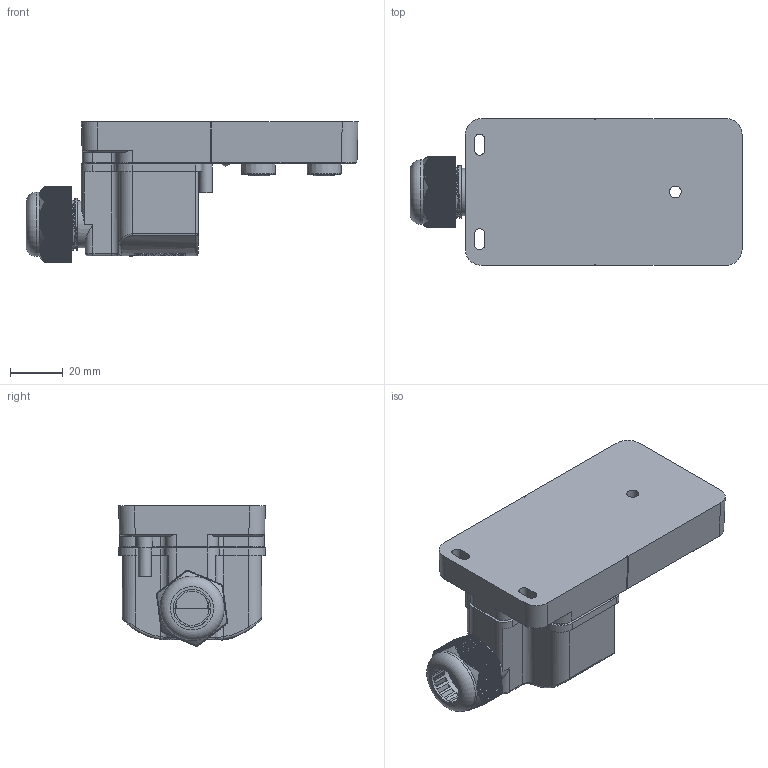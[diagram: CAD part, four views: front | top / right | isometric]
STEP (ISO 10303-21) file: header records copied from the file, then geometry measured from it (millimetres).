
FILE_DESCRIPTION(/* description */ (''),/* implementation_level */ '2;1');
FILE_NAME(/* name */ 'D4M12-5T-DZT.stp',/* time_stamp */ '2021-11-02T17:38:56+08:00',/* author */ (''),/* organization */ (''),/* preprocessor_version */ 'ST-DEVELOPER v16.7',/* originating_system */ 'SIEMENS PLM Software NX 12.0',/* authorisation */ '');
FILE_SCHEMA (('AP203_CONFIGURATION_CONTROLLED_3D_DESIGN_OF_MECHANICAL_PARTS_AND_ASSEMBLIES_MIM_LF { 1 0 10303 403 2 1 2}'));
Products named in the file (1): Admi0208AD27xst5
Bounding box: 126.42 x 56 x 53.39 mm (x, y, z)
Volume: 116040.5 mm3; surface area: 69512.9 mm2
Topology: 7 solids, 20 shells, 2338 faces, 6579 edges, 4379 vertices
Faces by surface type: plane 1645, cylinder 481, cone 120, sphere 31, extrusion 23, torus 21, bspline 17
Full cylindrical faces by diameter (mm): 1 x20, 1.1 x20, 1.2 x40, 2 x20, 2.1 x20, 2.4 x20, 2.5 x26, 2.6 x2, 2.8 x1, 3 x4, 4 x4, 4.5 x1, 4.8 x1, 10 x1, 13 x5, 14.35 x1, 16 x1, 18 x1, 24.5 x1
Entity records: 84178 total; most frequent: CARTESIAN_POINT 26504, ORIENTED_EDGE 12188, DIRECTION 11065, EDGE_CURVE 6094, VERTEX_POINT 4200, VECTOR 3719, LINE 3696, AXIS2_PLACEMENT_3D 3673
